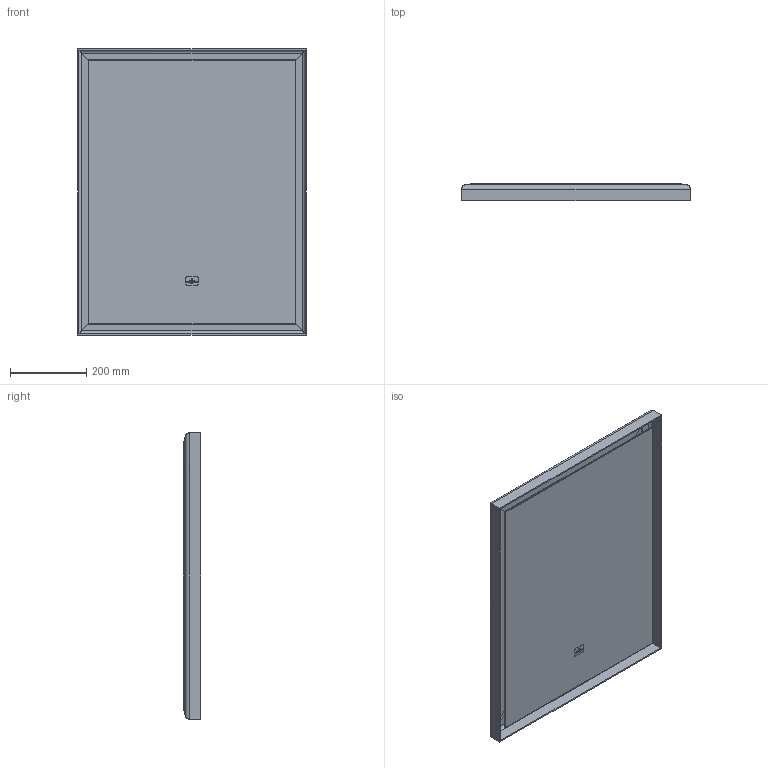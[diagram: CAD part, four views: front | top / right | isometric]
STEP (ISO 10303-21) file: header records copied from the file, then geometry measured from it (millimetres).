
FILE_DESCRIPTION(/* description */ (''),/* implementation_level */ '2;1');
FILE_NAME(/* name */ 'K:\ACAD\PERSPECT\Freisteller\V&B\Subway 3.0\A46360YY.stp',/* time_stamp */ '2020-07-28T15:27:46+02:00',/* author */ ('StegeR'),/* organization */ (''),/* preprocessor_version */ 'ST-DEVELOPER v16.1',/* originating_system */ 'Autodesk Inventor 2016',/* authorisation */ '');
FILE_SCHEMA (('AUTOMOTIVE_DESIGN { 1 0 10303 214 3 1 1 }'));
Length unit declared in the file: millimetre
Products named in the file (1): A46360YY
Bounding box: 600 x 45.5 x 750 mm (x, y, z)
Volume: 3114169.3 mm3; surface area: 1763773.7 mm2
Topology: 35 solids, 35 shells, 802 faces, 2041 edges, 1358 vertices
Faces by surface type: plane 594, cylinder 200, bspline 8
Full cylindrical faces by diameter (mm): 0.488 x2, 4.4 x12, 5.8 x24
Entity records: 24117 total; most frequent: CARTESIAN_POINT 4308, ORIENTED_EDGE 4006, DIRECTION 4005, EDGE_CURVE 2003, LINE 1575, VECTOR 1575, VERTEX_POINT 1358, AXIS2_PLACEMENT_3D 1215
